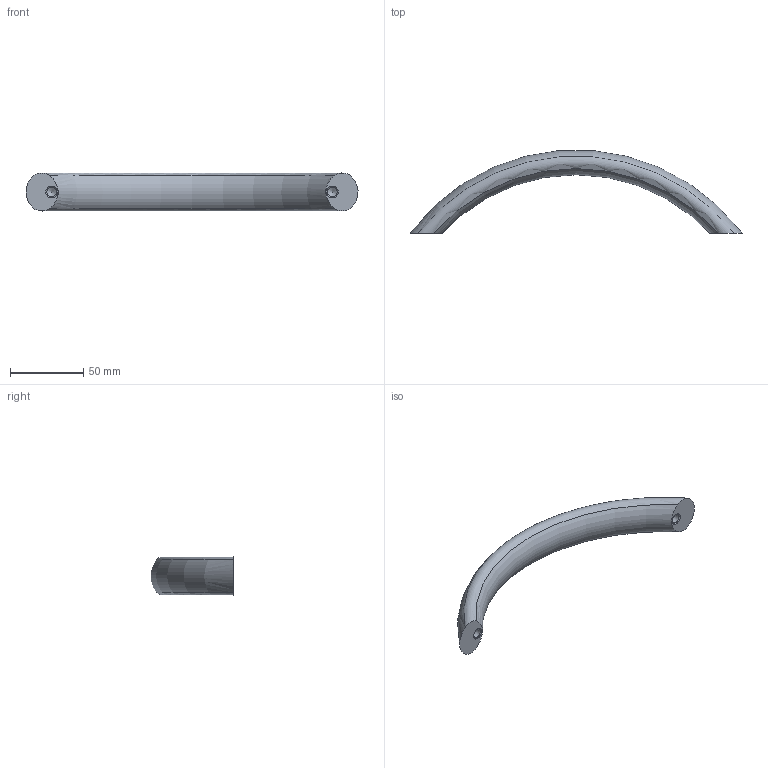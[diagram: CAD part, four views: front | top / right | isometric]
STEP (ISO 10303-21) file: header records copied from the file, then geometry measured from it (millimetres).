
FILE_DESCRIPTION( ( 'STEP AP203' ), '1' );
FILE_NAME( 'C:/Temp/Ganter_Step_05_03_2020/data/1_2/gn_565_4/Arch handle GN 565.4-26-192-A-SR.stp', '2020-03-05T10:12:32', ( 'License CC BY-ND 4.0' ), ( 'CADENAS' ), ' ', 'PARTsolutions', ' ' );
FILE_SCHEMA( ( 'CONFIG_CONTROL_DESIGN' ) );
Length unit declared in the file: millimetre
Products named in the file (1): _Arch handle GN 565.4-26-192-A-SR
Bounding box: 226.97 x 56.5 x 26 mm (x, y, z)
Volume: 79324.9 mm3; surface area: 17416.6 mm2
Topology: 1 solids, 1 shells, 12 faces, 26 edges, 16 vertices
Faces by surface type: cone 4, torus 4, cylinder 2, plane 2
Full cylindrical faces by diameter (mm): 6.647 x2
Entity records: 498 total; most frequent: CARTESIAN_POINT 229, DIRECTION 46, ORIENTED_EDGE 36, AXIS2_PLACEMENT_3D 23, EDGE_LOOP 18, EDGE_CURVE 18, VERTEX_POINT 16, FACE_OUTER_BOUND 14
